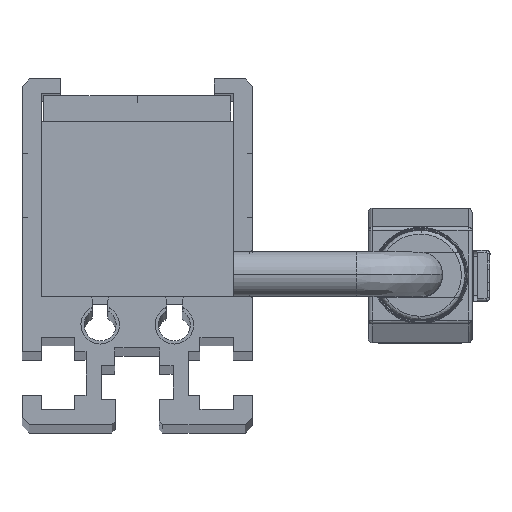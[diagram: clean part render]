
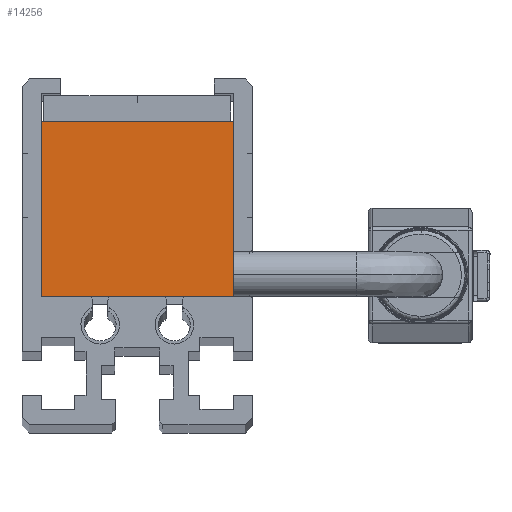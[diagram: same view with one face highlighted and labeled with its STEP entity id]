
A CAD part, top view. The second image highlights one B-rep face of the part: STEP entity #14256.
In plain terms, the highlighted planar face has unit normal (0, 0, 1).
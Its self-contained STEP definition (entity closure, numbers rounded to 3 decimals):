
#129 = DIRECTION ( 'NONE',  ( 0., -1., 0. ) ) ;
#667 = ORIENTED_EDGE ( 'NONE', *, *, #893, .F. ) ;
#893 = EDGE_CURVE ( 'NONE', #4010, #5833, #7060, .T. ) ;
#1092 = CARTESIAN_POINT ( 'NONE',  ( -7.5, 13.7, 186. ) ) ;
#1094 = DIRECTION ( 'NONE',  ( 0., 0., -1. ) ) ;
#1333 = EDGE_CURVE ( 'NONE', #1739, #10143, #12048, .T. ) ;
#1385 = AXIS2_PLACEMENT_3D ( 'NONE', #16672, #1094, #10151 ) ;
#1448 = CARTESIAN_POINT ( 'NONE',  ( -7.5, 0., 186. ) ) ;
#1739 = VERTEX_POINT ( 'NONE', #14685 ) ;
#1804 = VECTOR ( 'NONE', #129, 1000. ) ;
#1881 = ORIENTED_EDGE ( 'NONE', *, *, #1333, .T. ) ;
#2829 = CARTESIAN_POINT ( 'NONE',  ( 7.5, 13.7, 186. ) ) ;
#3086 = EDGE_CURVE ( 'NONE', #10143, #5833, #16468, .T. ) ;
#4010 = VERTEX_POINT ( 'NONE', #8192 ) ;
#5195 = PLANE ( 'NONE',  #1385 ) ;
#5679 = CARTESIAN_POINT ( 'NONE',  ( 7.5, 13.7, 186. ) ) ;
#5833 = VERTEX_POINT ( 'NONE', #1448 ) ;
#6975 = DIRECTION ( 'NONE',  ( 0., -1., 0. ) ) ;
#7060 = LINE ( 'NONE', #8341, #11282 ) ;
#8192 = CARTESIAN_POINT ( 'NONE',  ( 7.5, 0., 186. ) ) ;
#8292 = EDGE_CURVE ( 'NONE', #1739, #4010, #16358, .T. ) ;
#8341 = CARTESIAN_POINT ( 'NONE',  ( 7.5, 0., 186. ) ) ;
#8568 = DIRECTION ( 'NONE',  ( -1., 0., 0. ) ) ;
#8595 = DIRECTION ( 'NONE',  ( -1., 0., 0. ) ) ;
#8683 = VECTOR ( 'NONE', #8595, 1000. ) ;
#10143 = VERTEX_POINT ( 'NONE', #1092 ) ;
#10151 = DIRECTION ( 'NONE',  ( -1., 0., 0. ) ) ;
#10723 = ORIENTED_EDGE ( 'NONE', *, *, #3086, .T. ) ;
#11173 = FACE_OUTER_BOUND ( 'NONE', #11436, .T. ) ;
#11282 = VECTOR ( 'NONE', #8568, 1000. ) ;
#11436 = EDGE_LOOP ( 'NONE', ( #10723, #667, #14494, #1881 ) ) ;
#12048 = LINE ( 'NONE', #2829, #8683 ) ;
#14256 = ADVANCED_FACE ( 'NONE', ( #11173 ), #5195, .F. ) ;
#14494 = ORIENTED_EDGE ( 'NONE', *, *, #8292, .F. ) ;
#14552 = CARTESIAN_POINT ( 'NONE',  ( -7.5, 13.7, 186. ) ) ;
#14685 = CARTESIAN_POINT ( 'NONE',  ( 7.5, 13.7, 186. ) ) ;
#15030 = VECTOR ( 'NONE', #6975, 1000. ) ;
#16358 = LINE ( 'NONE', #5679, #1804 ) ;
#16468 = LINE ( 'NONE', #14552, #15030 ) ;
#16672 = CARTESIAN_POINT ( 'NONE',  ( 7.5, 13.7, 186. ) ) ;
